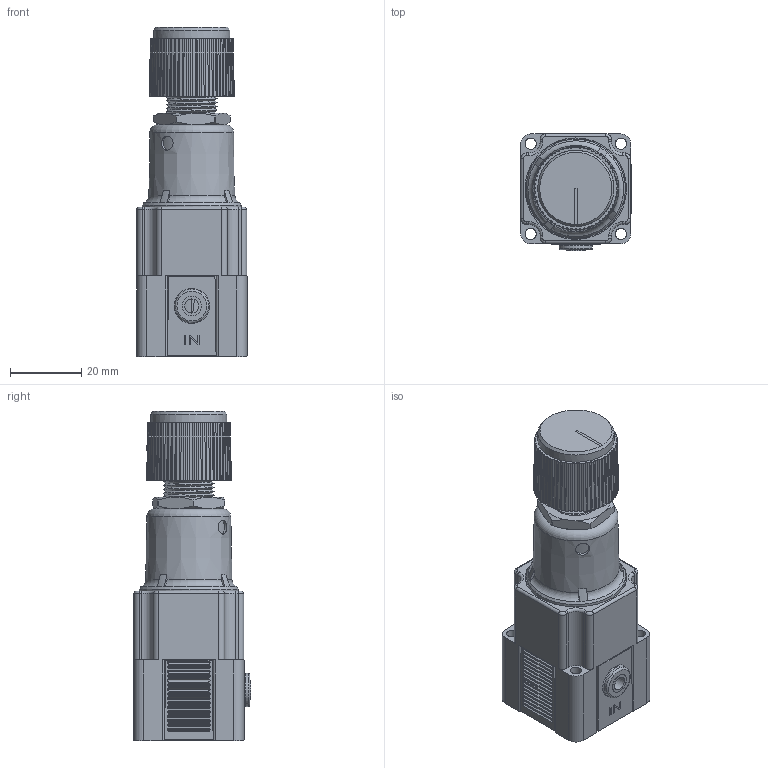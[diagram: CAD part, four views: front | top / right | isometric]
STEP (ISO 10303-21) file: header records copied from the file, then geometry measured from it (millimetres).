
FILE_DESCRIPTION(/* description */ (''),/* implementation_level */ '2;1');
FILE_NAME(/* name */ 'K:\Normteile INVENTOR\Air-Logic\Regulators\NR4000\NR 4___ 0 10-32 UNF Threads In.igs.ipt.stp',/* time_stamp */ '2020-05-27T10:50:02+02:00',/* author */ ('Paul'),/* organization */ (''),/* preprocessor_version */ 'ST-DEVELOPER v18',/* originating_system */ 'Autodesk Inventor 2020',/* authorisation */ '');
FILE_SCHEMA (('AUTOMOTIVE_DESIGN { 1 0 10303 214 3 1 1 }'));
Length unit declared in the file: inch
Products named in the file (1): NR 4___ 0 10-32 UNF Threads In.igs
Bounding box: 31.06 x 32.97 x 92.65 mm (x, y, z)
Volume: 54839.5 mm3; surface area: 18204.6 mm2
Topology: 1 solids, 1 shells, 905 faces, 2327 edges, 1485 vertices
Faces by surface type: plane 449, cylinder 328, cone 82, torus 23, bspline 23
Full cylindrical faces by diameter (mm): 3.175 x4, 3.962 x1, 3.988 x1, 4.039 x1, 4.064 x1, 5.486 x1, 6.248 x1, 9.169 x1, 9.398 x1, 9.652 x1, 12.903 x1, 14.287 x2, 19.406 x1, 21.476 x1, 26.264 x1, 27.94 x1, 27.991 x1, 28.575 x1
Entity records: 36118 total; most frequent: CARTESIAN_POINT 12578, DIRECTION 4949, ORIENTED_EDGE 4654, EDGE_CURVE 2327, AXIS2_PLACEMENT_3D 1904, VERTEX_POINT 1485, LINE 1141, VECTOR 1141
